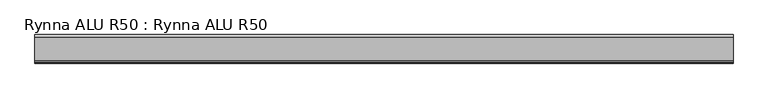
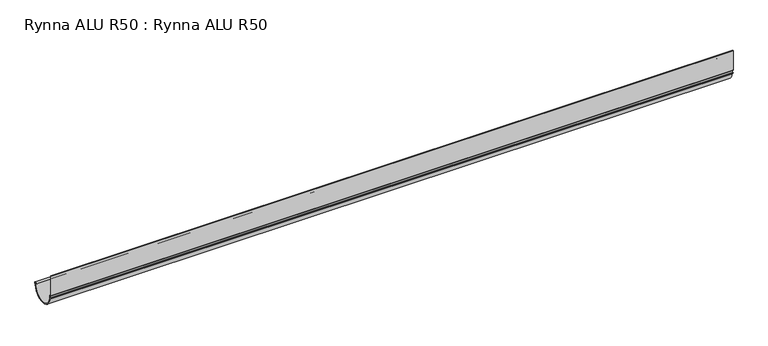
"""IFC4 building model written with IfcOpenShell, lengths in millimetres: proxy geometry, Rynna ALU R50 : Rynna ALU R50."""

from ifc_helpers import new_model, si_unit, point, frame, frame_2d, origin, place, context, project, spatial, polyline, circle_curve, trimmed, segment, composite_curve, outline, extrude, source, transform, mapped, element, save


def rynna_alu_r50_rynna_alu_r50_be74cc9b(model_context):
    return source(origin(), model_context, "Body", "SweptSolid", [
        extrude(outline(composite_curve([segment(polyline([(-0.6978396, 0.0), (0.7021617, 0.0), (0.7021617, -38.7702547), (3.0707013, -41.065916), (3.9370468, -46.8196069)]), True, "CONTINUOUS"), segment(trimmed(circle_curve(frame_2d((27.3646611, -44.302303)), 23.5624686), [point((3.9370468, -46.8196069))], [point((50.8512717, -46.1914952))], True, "CARTESIAN"), True, "CONTINUOUS"), segment(trimmed(circle_curve(frame_2d((50.3771937, -44.3000011)), 1.95), [point((50.8512717, -46.1914952))], [point((52.3271923, -44.302303))], False, "CARTESIAN"), True, "CONTINUOUS"), segment(trimmed(circle_curve(frame_2d((27.3646611, -44.302303)), 24.9625312), [point((52.3271923, -44.302303))], [point((2.6292486, -47.6619658))], False, "CARTESIAN"), True, "CONTINUOUS"), segment(polyline([(2.6292486, -47.6619658), (-0.1767814, -46.0765907), (-0.9565767, -44.1281649), (2.328284, -45.5225054), (1.8149767, -41.8701356), (-0.6978396, -39.5252625), (-0.6978396, 0.0)]), True, "CONTINUOUS")], self_intersect=False)), frame((-650.0, 0.0, 0.0), z_axis=(1.0, 0.0, 0.0), x_axis=(0.0, 1.0, 0.0)), (0.0, 0.0, 1.0), 1300.0),
    ])


if __name__ == "__main__":
    model = new_model("IFC4")
    model_context = context("Model", 3, world=origin())
    ifc_project = project(units=[si_unit("LENGTHUNIT", "METRE", prefix="MILLI")], contexts=[model_context])
    site = spatial("IfcSite", under=ifc_project)
    building = spatial("IfcBuilding", under=site)
    placement = place(None, origin())
    rynna_alu_r50_rynna_alu_r50_shape = rynna_alu_r50_rynna_alu_r50_be74cc9b(model_context)
    element("IfcBuildingElementProxy", 1, Name="Rynna ALU R50 : Rynna ALU R50", ObjectType="Rynna ALU R50 : Rynna ALU R50", at=placement, inside=building, context=model_context, shape_type="MappedRepresentation", body=[
        mapped(rynna_alu_r50_rynna_alu_r50_shape, transform((0.0, 0.0, 0.0), x_axis=(1.0, 0.0, 0.0), y_axis=(0.0, 1.0, 0.0), z_axis=(0.0, 0.0, 1.0))),
    ])
    save(model, "model.ifc")
